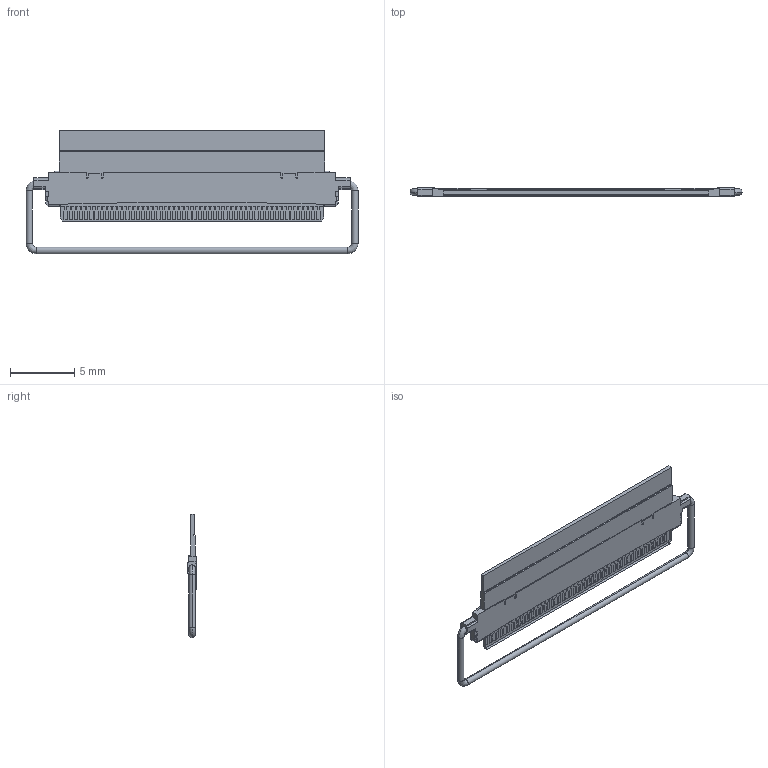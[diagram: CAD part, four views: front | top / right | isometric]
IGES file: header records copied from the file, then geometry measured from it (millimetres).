
Start section: SolidWorks IGES file using analytic representation for surfaces
Global section: file name: C:\3dwork\watanabe\20250902_CABLINE-CAL_IIF Web3D\21088-050T-01C SHELL ASSEMBLY IGES R1 ALL.IGS; native system: SolidWorks 2023; preprocessor: SolidWorks 2023; author: 83197; date: 250909.175649; units: millimetre
Bounding box: 25.74 x 0.67 x 9.57 mm (x, y, z)
Surface area: 404.2 mm2 (no closed solid volume)
Topology: 0 solids, 0 shells, 582 faces, 3670 edges, 3670 vertices
Faces by surface type: bspline 520, revolution 62
